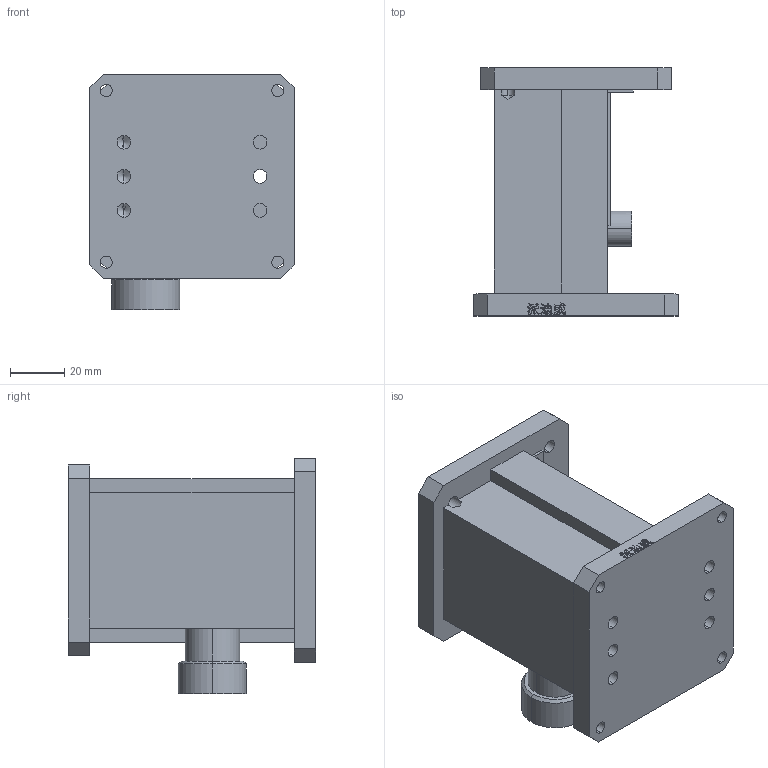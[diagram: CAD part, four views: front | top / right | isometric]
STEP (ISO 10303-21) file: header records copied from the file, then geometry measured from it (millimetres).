
FILE_DESCRIPTION (( 'STEP AP214' ), '1' );
FILE_NAME ('PT-SD403.STEP', '2022-09-12T05:15:55', ( '' ), ( '' ), 'SwSTEP 2.0', 'SolidWorks 2017', '' );
FILE_SCHEMA (( 'AUTOMOTIVE_DESIGN' ));
Length unit declared in the file: millimetre
Products named in the file (1): PT-SD403
Bounding box: 75 x 91 x 86.5 mm (x, y, z)
Volume: 257756.5 mm3; surface area: 42829.4 mm2
Topology: 1 solids, 3 shells, 517 faces, 1393 edges, 912 vertices
Faces by surface type: plane 280, bspline 152, cylinder 64, cone 21
Entity records: 22238 total; most frequent: CARTESIAN_POINT 10188, ORIENTED_EDGE 2748, DIRECTION 1938, EDGE_CURVE 1374, VECTOR 934, LINE 934, VERTEX_POINT 912, EDGE_LOOP 596
